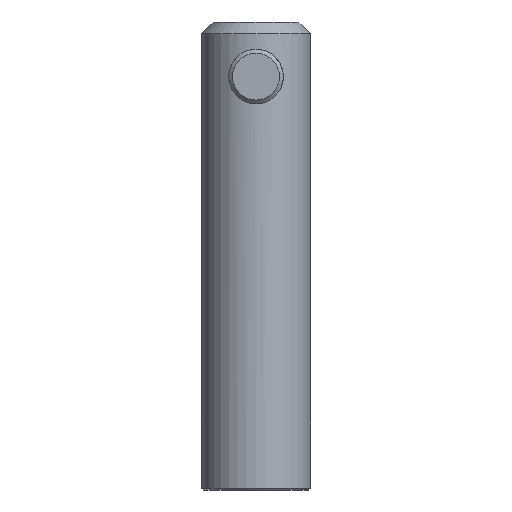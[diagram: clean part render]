
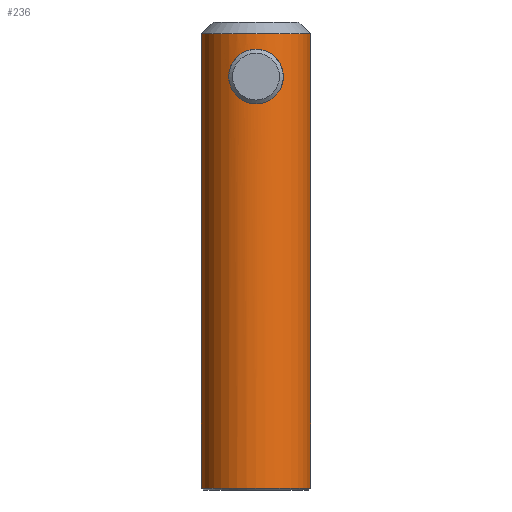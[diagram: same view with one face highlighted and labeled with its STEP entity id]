
A CAD part, left-side view. The second image highlights one B-rep face of the part: STEP entity #236.
In plain terms, the highlighted cylindrical face has radius 14 mm (diameter 28 mm), a full revolution.
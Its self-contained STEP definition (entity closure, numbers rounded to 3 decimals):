
#24=FACE_BOUND('',#51,.T.);
#26=B_SPLINE_CURVE_WITH_KNOTS('',3,(#378,#379,#380,#381,#382,#383,#384,
#385,#386,#387),.UNSPECIFIED.,.F.,.F.,(4,2,2,2,4),(3.229,3.498,
3.766,4.036,4.305),.UNSPECIFIED.);
#27=B_SPLINE_CURVE_WITH_KNOTS('',3,(#389,#390,#391,#392,#393,#394,#395,
#396,#397,#398),.UNSPECIFIED.,.F.,.F.,(4,2,2,2,4),(0.,0.269,
0.539,0.808,1.076),.UNSPECIFIED.);
#28=B_SPLINE_CURVE_WITH_KNOTS('',3,(#400,#401,#402,#403,#404,#405,#406,
#407,#408,#409,#410,#411,#412,#413,#414,#415,#416,#417),.UNSPECIFIED.,.F.,
 .F.,(4,2,2,2,2,2,2,2,4),(1.076,1.345,1.614,
1.883,2.153,2.422,2.691,2.96,
3.229),.UNSPECIFIED.);
#29=B_SPLINE_CURVE_WITH_KNOTS('',3,(#419,#420,#421,#422,#423,#424,#425,
#426,#427,#428,#429,#430,#431,#432,#433,#434,#435,#436,#437,#438,#439,#440,
#441,#442,#443,#444,#445,#446,#447,#448,#449,#450,#451,#452),
 .UNSPECIFIED.,.T.,.F.,(4,2,2,2,2,2,2,2,2,2,2,2,2,2,2,2,4),(0.,0.269,
0.539,0.808,1.076,1.345,1.614,
1.883,2.153,2.422,2.691,2.96,
3.229,3.498,3.766,4.036,4.305),
 .UNSPECIFIED.);
#30=CYLINDRICAL_SURFACE('',#274,14.);
#34=FACE_OUTER_BOUND('',#50,.T.);
#50=EDGE_LOOP('',(#171,#172,#173,#174,#175,#176,#177,#178,#179));
#51=EDGE_LOOP('',(#180));
#68=LINE('',#376,#88);
#69=LINE('',#399,#89);
#88=VECTOR('',#308,14.);
#89=VECTOR('',#309,14.);
#108=CIRCLE('',#273,14.);
#109=CIRCLE('',#275,14.);
#116=VERTEX_POINT('',#369);
#117=VERTEX_POINT('',#373);
#118=VERTEX_POINT('',#375);
#119=VERTEX_POINT('',#377);
#120=VERTEX_POINT('',#388);
#121=VERTEX_POINT('',#418);
#137=EDGE_CURVE('',#116,#116,#108,.T.);
#138=EDGE_CURVE('',#117,#117,#109,.T.);
#139=EDGE_CURVE('',#117,#118,#68,.T.);
#140=EDGE_CURVE('',#118,#119,#26,.T.);
#141=EDGE_CURVE('',#119,#120,#27,.T.);
#142=EDGE_CURVE('',#120,#116,#69,.T.);
#143=EDGE_CURVE('',#120,#118,#28,.T.);
#144=EDGE_CURVE('',#121,#121,#29,.T.);
#171=ORIENTED_EDGE('',*,*,#138,.F.);
#172=ORIENTED_EDGE('',*,*,#139,.T.);
#173=ORIENTED_EDGE('',*,*,#140,.T.);
#174=ORIENTED_EDGE('',*,*,#141,.T.);
#175=ORIENTED_EDGE('',*,*,#142,.T.);
#176=ORIENTED_EDGE('',*,*,#137,.F.);
#177=ORIENTED_EDGE('',*,*,#142,.F.);
#178=ORIENTED_EDGE('',*,*,#143,.T.);
#179=ORIENTED_EDGE('',*,*,#139,.F.);
#180=ORIENTED_EDGE('',*,*,#144,.T.);
#236=ADVANCED_FACE('',(#34,#24),#30,.T.);
#273=AXIS2_PLACEMENT_3D('',#371,#302,#303);
#274=AXIS2_PLACEMENT_3D('',#372,#304,#305);
#275=AXIS2_PLACEMENT_3D('',#374,#306,#307);
#302=DIRECTION('center_axis',(0.,0.,-1.));
#303=DIRECTION('ref_axis',(-1.,0.,0.));
#304=DIRECTION('center_axis',(0.,0.,1.));
#305=DIRECTION('ref_axis',(-1.,0.,0.));
#306=DIRECTION('center_axis',(0.,0.,1.));
#307=DIRECTION('ref_axis',(-1.,0.,0.));
#308=DIRECTION('',(0.,0.,-1.));
#309=DIRECTION('',(0.,0.,-1.));
#369=CARTESIAN_POINT('',(14.,0.,0.5));
#371=CARTESIAN_POINT('Origin',(0.,0.,0.5));
#372=CARTESIAN_POINT('Origin',(0.,0.,0.));
#373=CARTESIAN_POINT('',(14.,0.,117.));
#374=CARTESIAN_POINT('Origin',(0.,0.,117.));
#375=CARTESIAN_POINT('',(14.,0.,113.));
#376=CARTESIAN_POINT('',(14.,0.,0.));
#377=CARTESIAN_POINT('',(12.124,7.,106.));
#378=CARTESIAN_POINT('Ctrl Pts',(14.,0.,113.));
#379=CARTESIAN_POINT('Ctrl Pts',(14.,0.896,113.));
#380=CARTESIAN_POINT('Ctrl Pts',(13.906,1.841,112.818));
#381=CARTESIAN_POINT('Ctrl Pts',(13.568,3.561,112.098));
#382=CARTESIAN_POINT('Ctrl Pts',(13.327,4.338,111.562));
#383=CARTESIAN_POINT('Ctrl Pts',(12.864,5.563,110.336));
#384=CARTESIAN_POINT('Ctrl Pts',(12.608,6.099,109.56));
#385=CARTESIAN_POINT('Ctrl Pts',(12.235,6.817,107.842));
#386=CARTESIAN_POINT('Ctrl Pts',(12.124,7.,106.898));
#387=CARTESIAN_POINT('Ctrl Pts',(12.124,7.,106.));
#388=CARTESIAN_POINT('',(14.,0.,99.));
#389=CARTESIAN_POINT('Ctrl Pts',(12.124,7.,106.));
#390=CARTESIAN_POINT('Ctrl Pts',(12.124,7.,105.102));
#391=CARTESIAN_POINT('Ctrl Pts',(12.235,6.817,104.158));
#392=CARTESIAN_POINT('Ctrl Pts',(12.608,6.099,102.44));
#393=CARTESIAN_POINT('Ctrl Pts',(12.864,5.563,101.664));
#394=CARTESIAN_POINT('Ctrl Pts',(13.327,4.338,100.438));
#395=CARTESIAN_POINT('Ctrl Pts',(13.568,3.561,99.902));
#396=CARTESIAN_POINT('Ctrl Pts',(13.906,1.841,99.182));
#397=CARTESIAN_POINT('Ctrl Pts',(14.,0.896,99.));
#398=CARTESIAN_POINT('Ctrl Pts',(14.,0.,99.));
#399=CARTESIAN_POINT('',(14.,0.,0.));
#400=CARTESIAN_POINT('Ctrl Pts',(14.,0.,99.));
#401=CARTESIAN_POINT('Ctrl Pts',(14.,-0.896,99.));
#402=CARTESIAN_POINT('Ctrl Pts',(13.906,-1.841,99.182));
#403=CARTESIAN_POINT('Ctrl Pts',(13.568,-3.561,99.902));
#404=CARTESIAN_POINT('Ctrl Pts',(13.327,-4.338,100.438));
#405=CARTESIAN_POINT('Ctrl Pts',(12.864,-5.563,101.664));
#406=CARTESIAN_POINT('Ctrl Pts',(12.608,-6.099,102.44));
#407=CARTESIAN_POINT('Ctrl Pts',(12.235,-6.817,104.158));
#408=CARTESIAN_POINT('Ctrl Pts',(12.124,-7.,105.102));
#409=CARTESIAN_POINT('Ctrl Pts',(12.124,-7.,106.898));
#410=CARTESIAN_POINT('Ctrl Pts',(12.235,-6.817,107.842));
#411=CARTESIAN_POINT('Ctrl Pts',(12.608,-6.099,109.56));
#412=CARTESIAN_POINT('Ctrl Pts',(12.864,-5.563,110.336));
#413=CARTESIAN_POINT('Ctrl Pts',(13.327,-4.338,111.562));
#414=CARTESIAN_POINT('Ctrl Pts',(13.568,-3.561,112.098));
#415=CARTESIAN_POINT('Ctrl Pts',(13.906,-1.841,112.818));
#416=CARTESIAN_POINT('Ctrl Pts',(14.,-0.896,113.));
#417=CARTESIAN_POINT('Ctrl Pts',(14.,0.,113.));
#418=CARTESIAN_POINT('',(-12.124,7.,106.));
#419=CARTESIAN_POINT('Ctrl Pts',(-12.124,7.,106.));
#420=CARTESIAN_POINT('Ctrl Pts',(-12.124,7.,106.898));
#421=CARTESIAN_POINT('Ctrl Pts',(-12.235,6.817,107.842));
#422=CARTESIAN_POINT('Ctrl Pts',(-12.608,6.099,109.56));
#423=CARTESIAN_POINT('Ctrl Pts',(-12.864,5.563,110.336));
#424=CARTESIAN_POINT('Ctrl Pts',(-13.327,4.338,111.562));
#425=CARTESIAN_POINT('Ctrl Pts',(-13.568,3.561,112.098));
#426=CARTESIAN_POINT('Ctrl Pts',(-13.906,1.841,112.818));
#427=CARTESIAN_POINT('Ctrl Pts',(-14.,0.896,113.));
#428=CARTESIAN_POINT('Ctrl Pts',(-14.,-0.896,113.));
#429=CARTESIAN_POINT('Ctrl Pts',(-13.906,-1.841,112.818));
#430=CARTESIAN_POINT('Ctrl Pts',(-13.568,-3.561,112.098));
#431=CARTESIAN_POINT('Ctrl Pts',(-13.327,-4.338,111.562));
#432=CARTESIAN_POINT('Ctrl Pts',(-12.864,-5.563,110.336));
#433=CARTESIAN_POINT('Ctrl Pts',(-12.608,-6.099,109.56));
#434=CARTESIAN_POINT('Ctrl Pts',(-12.235,-6.817,107.842));
#435=CARTESIAN_POINT('Ctrl Pts',(-12.124,-7.,106.898));
#436=CARTESIAN_POINT('Ctrl Pts',(-12.124,-7.,105.102));
#437=CARTESIAN_POINT('Ctrl Pts',(-12.235,-6.817,104.158));
#438=CARTESIAN_POINT('Ctrl Pts',(-12.608,-6.099,102.44));
#439=CARTESIAN_POINT('Ctrl Pts',(-12.864,-5.563,101.664));
#440=CARTESIAN_POINT('Ctrl Pts',(-13.327,-4.338,100.438));
#441=CARTESIAN_POINT('Ctrl Pts',(-13.568,-3.561,99.902));
#442=CARTESIAN_POINT('Ctrl Pts',(-13.906,-1.841,99.182));
#443=CARTESIAN_POINT('Ctrl Pts',(-14.,-0.896,99.));
#444=CARTESIAN_POINT('Ctrl Pts',(-14.,0.896,99.));
#445=CARTESIAN_POINT('Ctrl Pts',(-13.906,1.841,99.182));
#446=CARTESIAN_POINT('Ctrl Pts',(-13.568,3.561,99.902));
#447=CARTESIAN_POINT('Ctrl Pts',(-13.327,4.338,100.438));
#448=CARTESIAN_POINT('Ctrl Pts',(-12.864,5.563,101.664));
#449=CARTESIAN_POINT('Ctrl Pts',(-12.608,6.099,102.44));
#450=CARTESIAN_POINT('Ctrl Pts',(-12.235,6.817,104.158));
#451=CARTESIAN_POINT('Ctrl Pts',(-12.124,7.,105.102));
#452=CARTESIAN_POINT('Ctrl Pts',(-12.124,7.,106.));
